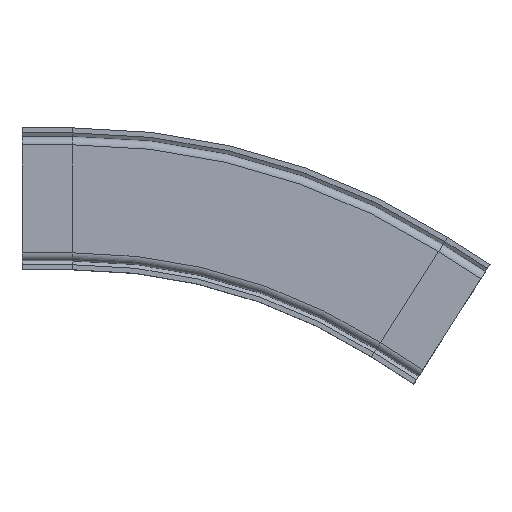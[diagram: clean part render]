
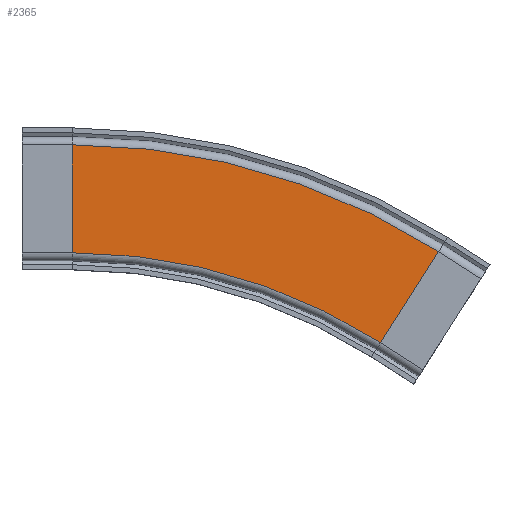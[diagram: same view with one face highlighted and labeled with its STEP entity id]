
A CAD part, top view. The second image highlights one B-rep face of the part: STEP entity #2365.
In plain terms, the highlighted planar face has unit normal (0, 0, 1).
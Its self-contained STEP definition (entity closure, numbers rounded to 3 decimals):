
#32 = AXIS2_PLACEMENT_3D ( 'NONE', #5563, #700, #721 ) ;
#229 = VECTOR ( 'NONE', #3460, 1000. ) ;
#389 = EDGE_CURVE ( 'NONE', #3638, #822, #2533, .T. ) ;
#460 = CARTESIAN_POINT ( 'NONE',  ( 285.546, -114.57, 42.5 ) ) ;
#480 = DIRECTION ( 'NONE',  ( 0., -1., 0. ) ) ;
#520 = FACE_OUTER_BOUND ( 'NONE', #3513, .T. ) ;
#700 = DIRECTION ( 'NONE',  ( 0., 0., 1. ) ) ;
#721 = DIRECTION ( 'NONE',  ( 1., 0., 0. ) ) ;
#743 = ORIENTED_EDGE ( 'NONE', *, *, #4122, .F. ) ;
#822 = VERTEX_POINT ( 'NONE', #2794 ) ;
#1733 = LINE ( 'NONE', #3170, #3444 ) ;
#1797 = DIRECTION ( 'NONE',  ( -1., 0., 0. ) ) ;
#1931 = CARTESIAN_POINT ( 'NONE',  ( 40., 43., 42.5 ) ) ;
#2038 = AXIS2_PLACEMENT_3D ( 'NONE', #5369, #4027, #5411 ) ;
#2156 = DIRECTION ( 'NONE',  ( 0., 0., -1. ) ) ;
#2215 = PLANE ( 'NONE',  #5195 ) ;
#2365 = ADVANCED_FACE ( 'NONE', ( #520 ), #2215, .F. ) ;
#2433 = VERTEX_POINT ( 'NONE', #3099 ) ;
#2533 = LINE ( 'NONE', #460, #229 ) ;
#2538 = CARTESIAN_POINT ( 'NONE',  ( 285.546, -114.57, 42.5 ) ) ;
#2640 = EDGE_CURVE ( 'NONE', #822, #4701, #5110, .T. ) ;
#2658 = CARTESIAN_POINT ( 'NONE',  ( 285.546, -114.57, 42.5 ) ) ;
#2794 = CARTESIAN_POINT ( 'NONE',  ( 331.754, -42.038, 42.5 ) ) ;
#3099 = CARTESIAN_POINT ( 'NONE',  ( 40., -43., 42.5 ) ) ;
#3170 = CARTESIAN_POINT ( 'NONE',  ( 40., 0., 42.5 ) ) ;
#3444 = VECTOR ( 'NONE', #480, 1000. ) ;
#3460 = DIRECTION ( 'NONE',  ( 0.537, 0.843, 0. ) ) ;
#3513 = EDGE_LOOP ( 'NONE', ( #3911, #743, #4615, #5593 ) ) ;
#3638 = VERTEX_POINT ( 'NONE', #2538 ) ;
#3890 = EDGE_CURVE ( 'NONE', #4701, #2433, #1733, .T. ) ;
#3911 = ORIENTED_EDGE ( 'NONE', *, *, #3890, .T. ) ;
#4027 = DIRECTION ( 'NONE',  ( 0., 0., 1. ) ) ;
#4122 = EDGE_CURVE ( 'NONE', #3638, #2433, #4131, .T. ) ;
#4131 = CIRCLE ( 'NONE', #32, 457. ) ;
#4615 = ORIENTED_EDGE ( 'NONE', *, *, #389, .T. ) ;
#4701 = VERTEX_POINT ( 'NONE', #1931 ) ;
#5110 = CIRCLE ( 'NONE', #2038, 543. ) ;
#5195 = AXIS2_PLACEMENT_3D ( 'NONE', #2658, #2156, #1797 ) ;
#5369 = CARTESIAN_POINT ( 'NONE',  ( 40., -500., 42.5 ) ) ;
#5411 = DIRECTION ( 'NONE',  ( 1., 0., 0. ) ) ;
#5563 = CARTESIAN_POINT ( 'NONE',  ( 40., -500., 42.5 ) ) ;
#5593 = ORIENTED_EDGE ( 'NONE', *, *, #2640, .T. ) ;
